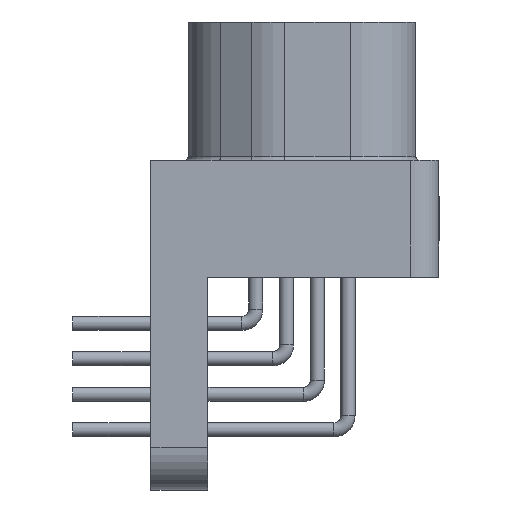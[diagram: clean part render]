
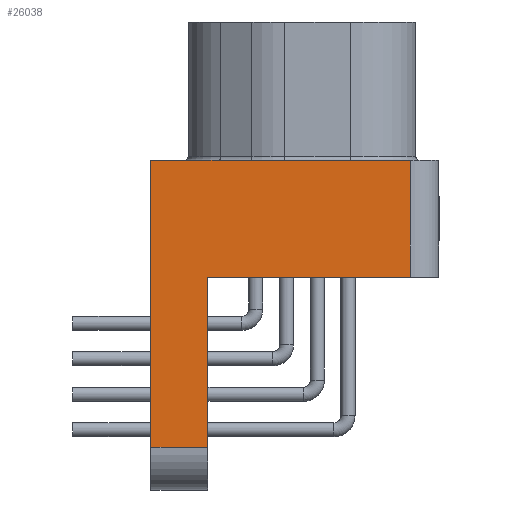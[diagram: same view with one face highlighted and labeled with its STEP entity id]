
A CAD part, left-side view. The second image highlights one B-rep face of the part: STEP entity #26038.
In plain terms, the highlighted planar face has unit normal (-1, 0, 0).
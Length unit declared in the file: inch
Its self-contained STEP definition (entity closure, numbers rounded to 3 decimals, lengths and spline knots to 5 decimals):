
#420 = DIRECTION ( 'NONE',  ( 0., 0., -1. ) ) ;
#670 = VECTOR ( 'NONE', #59071, 39.37008 ) ;
#1118 = EDGE_CURVE ( 'NONE', #5063, #33390, #3616, .T. ) ;
#1925 = ORIENTED_EDGE ( 'NONE', *, *, #65188, .F. ) ;
#2162 = ORIENTED_EDGE ( 'NONE', *, *, #1118, .T. ) ;
#3616 = LINE ( 'NONE', #23250, #59862 ) ;
#5063 = VERTEX_POINT ( 'NONE', #16878 ) ;
#8536 = PLANE ( 'NONE',  #34894 ) ;
#10236 = DIRECTION ( 'NONE',  ( 0., 0., -1. ) ) ;
#11016 = VERTEX_POINT ( 'NONE', #63676 ) ;
#12242 = DIRECTION ( 'NONE',  ( 0., 0., 1. ) ) ;
#13216 = DIRECTION ( 'NONE',  ( 0., -1., 0. ) ) ;
#14979 = VECTOR ( 'NONE', #420, 39.37008 ) ;
#14990 = VERTEX_POINT ( 'NONE', #29994 ) ;
#15103 = CARTESIAN_POINT ( 'NONE',  ( -1.08, -0.153, -0.365 ) ) ;
#15884 = EDGE_CURVE ( 'NONE', #17106, #11016, #31298, .T. ) ;
#16878 = CARTESIAN_POINT ( 'NONE',  ( -1.08, 0.133, -0.125 ) ) ;
#17106 = VERTEX_POINT ( 'NONE', #65932 ) ;
#20108 = LINE ( 'NONE', #27275, #14979 ) ;
#20474 = VERTEX_POINT ( 'NONE', #56420 ) ;
#23033 = DIRECTION ( 'NONE',  ( -1., 0., 0. ) ) ;
#23250 = CARTESIAN_POINT ( 'NONE',  ( -1.08, -0.153, -0.125 ) ) ;
#26038 = ADVANCED_FACE ( 'NONE', ( #60122 ), #8536, .T. ) ;
#27275 = CARTESIAN_POINT ( 'NONE',  ( -1.08, 0.133, 0.40878 ) ) ;
#29027 = VECTOR ( 'NONE', #10236, 39.37008 ) ;
#29835 = VECTOR ( 'NONE', #58952, 39.37008 ) ;
#29994 = CARTESIAN_POINT ( 'NONE',  ( -1.08, 0.213, -0.365 ) ) ;
#31298 = LINE ( 'NONE', #58606, #670 ) ;
#31994 = CARTESIAN_POINT ( 'NONE',  ( -1.08, -0.153, -0.125 ) ) ;
#33390 = VERTEX_POINT ( 'NONE', #31994 ) ;
#33462 = CARTESIAN_POINT ( 'NONE',  ( -1.08, -0.153, 0.04 ) ) ;
#34103 = LINE ( 'NONE', #15103, #29835 ) ;
#34894 = AXIS2_PLACEMENT_3D ( 'NONE', #44690, #23033, #12242 ) ;
#34944 = ORIENTED_EDGE ( 'NONE', *, *, #42666, .F. ) ;
#35901 = VECTOR ( 'NONE', #38449, 39.37008 ) ;
#38449 = DIRECTION ( 'NONE',  ( 0., 0., -1. ) ) ;
#39281 = LINE ( 'NONE', #33462, #35901 ) ;
#42666 = EDGE_CURVE ( 'NONE', #5063, #20474, #20108, .T. ) ;
#44690 = CARTESIAN_POINT ( 'NONE',  ( -1.08, -0.153, 0.04 ) ) ;
#44992 = ORIENTED_EDGE ( 'NONE', *, *, #57753, .T. ) ;
#50459 = EDGE_CURVE ( 'NONE', #14990, #20474, #34103, .T. ) ;
#51233 = LINE ( 'NONE', #58820, #29027 ) ;
#56420 = CARTESIAN_POINT ( 'NONE',  ( -1.08, 0.133, -0.365 ) ) ;
#56603 = ORIENTED_EDGE ( 'NONE', *, *, #50459, .T. ) ;
#56766 = ORIENTED_EDGE ( 'NONE', *, *, #15884, .T. ) ;
#57753 = EDGE_CURVE ( 'NONE', #11016, #14990, #51233, .T. ) ;
#58606 = CARTESIAN_POINT ( 'NONE',  ( -1.08, -0.153, 0.04 ) ) ;
#58820 = CARTESIAN_POINT ( 'NONE',  ( -1.08, 0.213, 0.40878 ) ) ;
#58952 = DIRECTION ( 'NONE',  ( 0., -1., 0. ) ) ;
#59071 = DIRECTION ( 'NONE',  ( 0., 1., 0. ) ) ;
#59862 = VECTOR ( 'NONE', #13216, 39.37008 ) ;
#60122 = FACE_OUTER_BOUND ( 'NONE', #69135, .T. ) ;
#63676 = CARTESIAN_POINT ( 'NONE',  ( -1.08, 0.213, 0.04 ) ) ;
#65188 = EDGE_CURVE ( 'NONE', #17106, #33390, #39281, .T. ) ;
#65932 = CARTESIAN_POINT ( 'NONE',  ( -1.08, -0.153, 0.04 ) ) ;
#69135 = EDGE_LOOP ( 'NONE', ( #44992, #56603, #34944, #2162, #1925, #56766 ) ) ;
